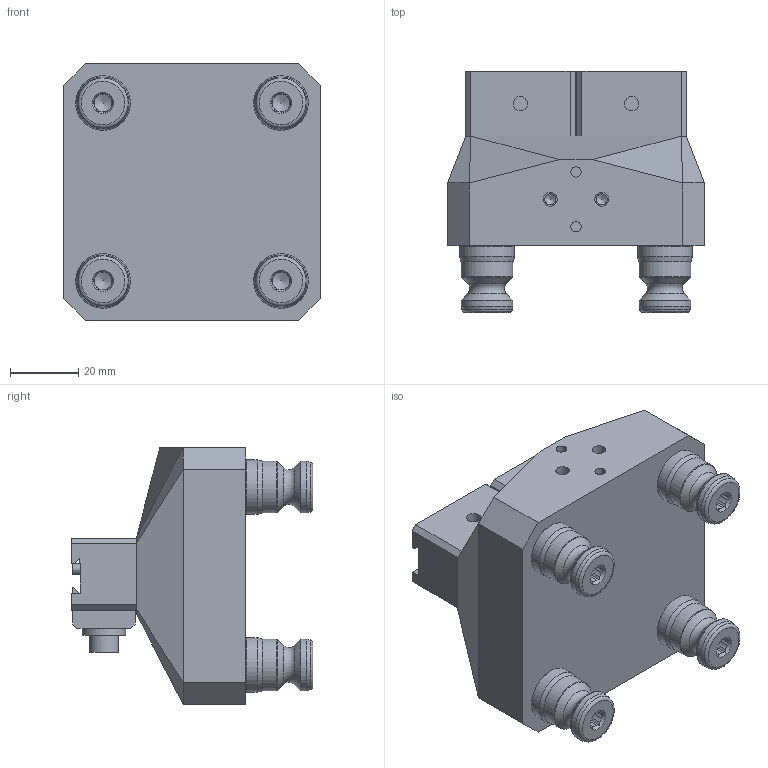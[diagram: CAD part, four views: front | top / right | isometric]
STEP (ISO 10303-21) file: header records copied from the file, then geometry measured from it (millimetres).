
FILE_DESCRIPTION (( 'STEP AP214' ), '1' );
FILE_NAME ('A52-2DM12_WEBSITE.STEP', '2025-08-13T04:29:14', ( '' ), ( '' ), 'SwSTEP 2.0', 'SolidWorks 2025', '' );
FILE_SCHEMA (( 'AUTOMOTIVE_DESIGN' ));
Length unit declared in the file: inch
Products named in the file (12): D_HW.0203X0500.FW_WEBSITE_DEFAULT; A52-2DM12_WEBSITE; M8X20.FPSS_WEBSITE_93245A145; D_76124_WEBSITE_91290A242; D_DM12_WEBSITE; PS16F_WEBSITE; D_DM12-1_WEBSITE_D051251WM; A52-DM12-1_WEBSITE; D_91595A100_METRIC ALLOY STEEL DOWEL PIN_WEBSITE_91595A100; D_CLW10M_WEBSITE_CLW10; PS16F-1_WEBSITE_HARD TURN; D_91595A108_METRIC ALLOY STEEL DOWEL PIN_WEBSITE_91595A108
Assembly tree (20 placements, depth 3):
  A52-2DM12_WEBSITE
    A52-DM12-1_WEBSITE
    D_DM12_WEBSITE  x2
      D_DM12-1_WEBSITE_D051251WM
      D_CLW10M_WEBSITE_CLW10
      D_HW.0203X0500.FW_WEBSITE_DEFAULT
      D_91595A100_METRIC ALLOY STEEL DOWEL PIN_WEBSITE_91595A100
      D_91595A108_METRIC ALLOY STEEL DOWEL PIN_WEBSITE_91595A108
      D_76124_WEBSITE_91290A242
    D_76124_WEBSITE_91290A242  x4
    PS16F_WEBSITE  x4
      PS16F-1_WEBSITE_HARD TURN
      M8X20.FPSS_WEBSITE_93245A145
Bounding box: 75 x 70.56 x 75 mm (x, y, z)
Volume: 188475.4 mm3; surface area: 47137.8 mm2
Topology: 27 solids, 27 shells, 530 faces, 1172 edges, 730 vertices
Faces by surface type: plane 292, cone 110, cylinder 100, torus 28
Full cylindrical faces by diameter (mm): 2.997 x6, 3 x6, 3.023 x8, 3.3 x2, 4 x2, 4.2 x8, 4.978 x2, 5 x6, 5.159 x2, 5.25 x4, 5.3 x4, 6.756 x2, 6.8 x8, 8 x8, 8.5 x6, 8.6 x4, 11.991 x4, 12.017 x4, 12.7 x2, 15.202 x8, 15.997 x4
Entity records: 5965 total; most frequent: CARTESIAN_POINT 1002, DIRECTION 971, ORIENTED_EDGE 724, AXIS2_PLACEMENT_3D 388, EDGE_CURVE 362, EDGE_LOOP 343, FACE_OUTER_BOUND 275, VERTEX_POINT 275
